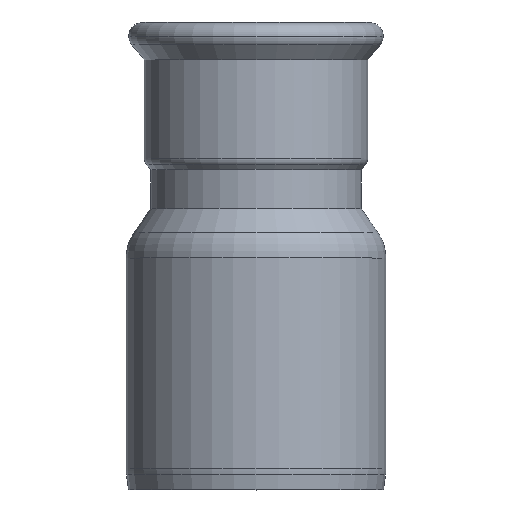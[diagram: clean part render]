
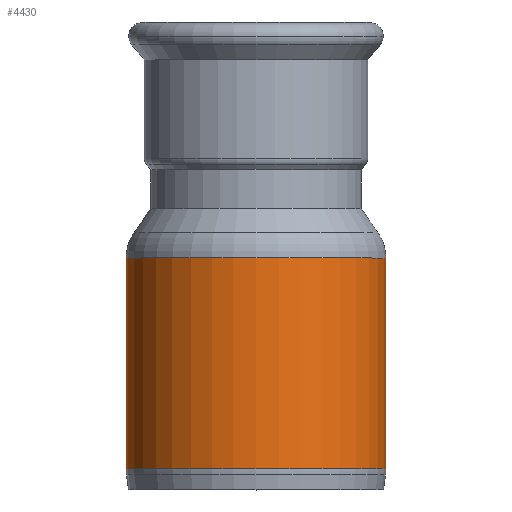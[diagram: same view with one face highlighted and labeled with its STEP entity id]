
A CAD part, top view. The second image highlights one B-rep face of the part: STEP entity #4430.
In plain terms, the highlighted cylindrical face has radius 33.35 mm (diameter 66.7 mm), a partial arc.
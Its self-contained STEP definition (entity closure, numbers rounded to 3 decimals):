
#1200=CARTESIAN_POINT('',(-10.749,-63.14,
0.));
#1210=VERTEX_POINT('',#1200);
#1260=CARTESIAN_POINT('',(22.601,-63.14,0.));
#1270=DIRECTION('',(0.,1.,0.));
#1280=DIRECTION('',(-1.,0.,0.));
#1290=AXIS2_PLACEMENT_3D('',#1260,#1270,#1280);
#1300=CIRCLE('',#1290,33.35);
#1310=CARTESIAN_POINT('',(55.951,-63.14,
0.));
#1320=VERTEX_POINT('',#1310);
#1330=EDGE_CURVE('',#1210,#1320,#1300,.T.);
#4120=CARTESIAN_POINT('',(22.601,-37.38,0.));
#4130=DIRECTION('',(-0.,-1.,0.));
#4140=DIRECTION('',(1.,0.,0.));
#4150=AXIS2_PLACEMENT_3D('',#4120,#4130,#4140);
#4160=CYLINDRICAL_SURFACE('',#4150,33.35);
#4170=CARTESIAN_POINT('',(55.951,-37.38,
0.));
#4180=DIRECTION('',(-0.,-1.,0.));
#4190=VECTOR('',#4180,1.);
#4200=LINE('',#4170,#4190);
#4210=CARTESIAN_POINT('',(55.951,-9.076,
0.));
#4220=VERTEX_POINT('',#4210);
#4230=EDGE_CURVE('',#4220,#1320,#4200,.T.);
#4240=ORIENTED_EDGE('',*,*,#4230,.F.);
#4250=ORIENTED_EDGE('',*,*,#1330,.T.);
#4260=CARTESIAN_POINT('',(-10.749,-37.38,
0.));
#4270=DIRECTION('',(-0.,-1.,0.));
#4280=VECTOR('',#4270,1.);
#4290=LINE('',#4260,#4280);
#4300=CARTESIAN_POINT('',(-10.749,-9.076,
0.));
#4310=VERTEX_POINT('',#4300);
#4320=EDGE_CURVE('',#4310,#1210,#4290,.T.);
#4330=ORIENTED_EDGE('',*,*,#4320,.T.);
#4340=CARTESIAN_POINT('',(22.601,-9.076,0.));
#4350=DIRECTION('',(0.,1.,0.));
#4360=DIRECTION('',(1.,0.,0.));
#4370=AXIS2_PLACEMENT_3D('',#4340,#4350,#4360);
#4380=CIRCLE('',#4370,33.35);
#4390=EDGE_CURVE('',#4310,#4220,#4380,.T.);
#4400=ORIENTED_EDGE('',*,*,#4390,.F.);
#4410=EDGE_LOOP('',(#4400,#4330,#4250,#4240));
#4420=FACE_OUTER_BOUND('',#4410,.T.);
#4430=ADVANCED_FACE('',(#4420),#4160,.T.);
